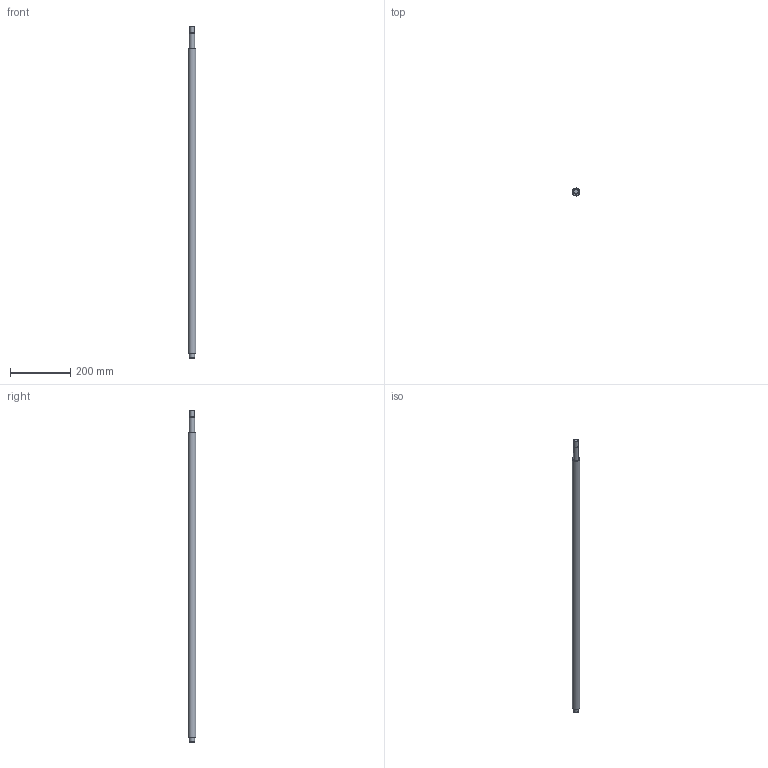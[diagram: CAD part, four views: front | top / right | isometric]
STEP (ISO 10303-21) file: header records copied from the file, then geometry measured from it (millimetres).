
FILE_DESCRIPTION(/* description */ (''),/* implementation_level */ '2;1');
FILE_NAME(/* name */ 'C:\Users\David Dillkötter\ownCloud\Kamp und Kötter\Artikel\_CAD-Dateien\CAD-Dateien-Shop\CAD-Dateien\Kugelumlaufspindel\2510\KUS2510x1100.stp',/* time_stamp */ '2020-09-03T09:47:55+02:00',/* author */ ('David Dillkötter'),/* organization */ (''),/* preprocessor_version */ 'ST-DEVELOPER v18.1',/* originating_system */ 'Autodesk Inventor 2021',/* authorisation */ '');
FILE_SCHEMA (('AUTOMOTIVE_DESIGN { 1 0 10303 214 3 1 1 }'));
Length unit declared in the file: millimetre
Products named in the file (1): KUS2510_Gewindespindel
Bounding box: 25 x 25 x 1100 mm (x, y, z)
Volume: 514498.3 mm3; surface area: 84930.2 mm2
Topology: 1 solids, 1 shells, 17 faces, 30 edges, 20 vertices
Faces by surface type: plane 7, cylinder 6, cone 4
Full cylindrical faces by diameter (mm): 15 x1, 16.2 x1, 17 x3, 25 x1
Entity records: 465 total; most frequent: DIRECTION 86, CARTESIAN_POINT 68, ORIENTED_EDGE 60, AXIS2_PLACEMENT_3D 38, EDGE_CURVE 30, EDGE_LOOP 22, CIRCLE 20, VERTEX_POINT 20
